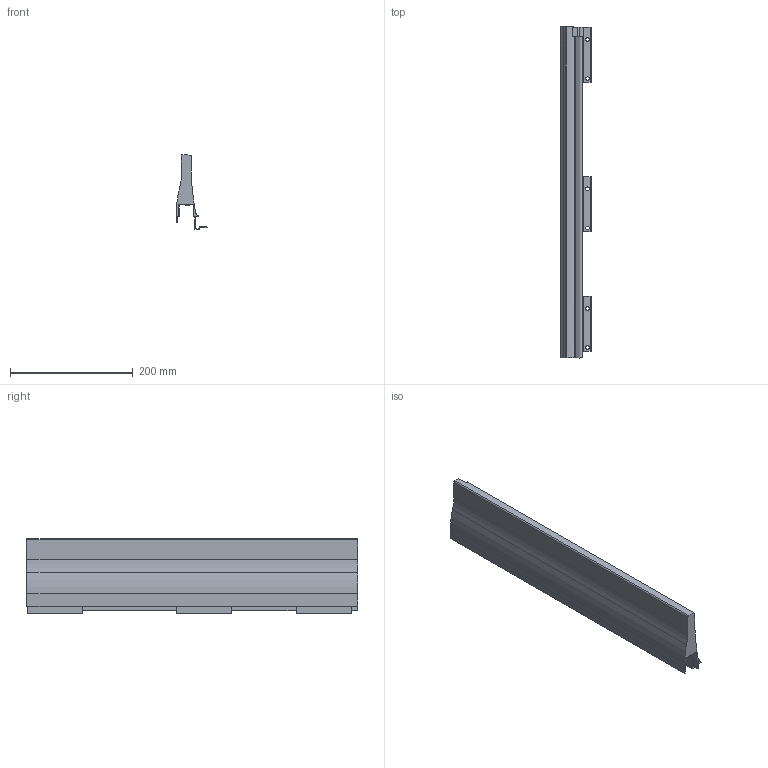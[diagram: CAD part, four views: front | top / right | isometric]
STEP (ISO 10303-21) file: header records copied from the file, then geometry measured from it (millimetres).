
FILE_DESCRIPTION (( 'STEP AP214' ), '1' );
FILE_NAME ('XP Standard Dekorseite H127 NL550 LI .step', '2010-09-21T09:46:29', ( 'grass' ), ( '' ), 'SwSTEP 2.0', 'SolidWorks 2010', '' );
FILE_SCHEMA (( 'AUTOMOTIVE_DESIGN' ));
Length unit declared in the file: millimetre
Products named in the file (1): XP Standard Dekorseite H127 NL550 LI  
Bounding box: 50.01 x 541.5 x 122 mm (x, y, z)
Volume: 932660.4 mm3; surface area: 210418.2 mm2
Topology: 1 solids, 1 shells, 135 faces, 396 edges, 258 vertices
Faces by surface type: plane 105, cylinder 30
Entity records: 4498 total; most frequent: ORIENTED_EDGE 792, CARTESIAN_POINT 790, DIRECTION 730, EDGE_CURVE 396, LINE 334, VECTOR 334, VERTEX_POINT 258, AXIS2_PLACEMENT_3D 198
